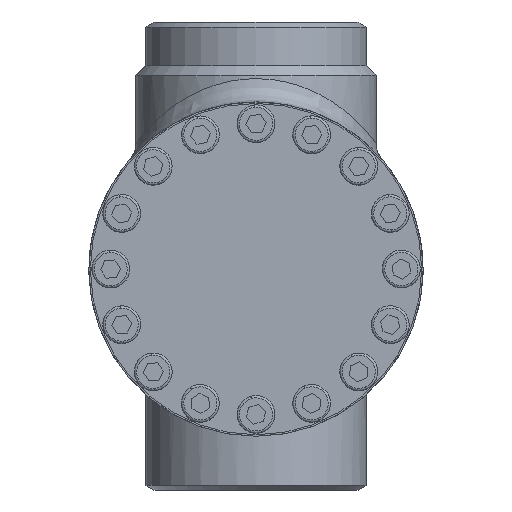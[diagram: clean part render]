
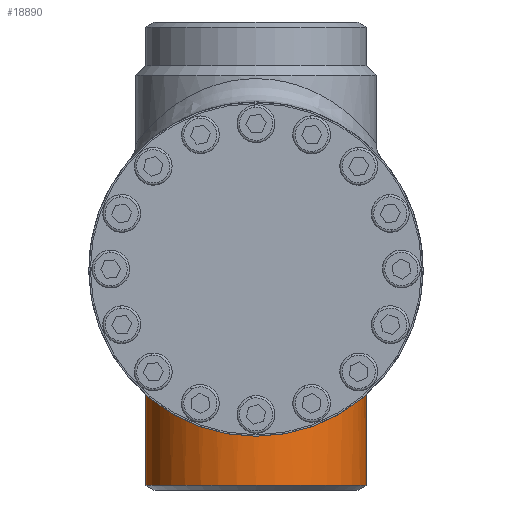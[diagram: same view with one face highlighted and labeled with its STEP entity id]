
A CAD part, front view. The second image highlights one B-rep face of the part: STEP entity #18890.
In plain terms, the highlighted cylindrical face has radius 38.05 mm (diameter 76.1 mm), a partial arc.
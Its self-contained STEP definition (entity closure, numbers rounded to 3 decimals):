
#17126 = ORIENTED_EDGE ( 'NONE', *, *, #10582, .T. ) ;
#1592 = VERTEX_POINT ( 'NONE', #28147 ) ;
#18431 = EDGE_LOOP ( 'NONE', ( #17126, #16137, #14436, #19377 ) ) ;
#18675 = EDGE_CURVE ( 'NONE', #10158, #3696, #11673, .T. ) ;
#18890 = ADVANCED_FACE ( 'NONE', ( #11850 ), #11851, .T. ) ;
#19377 = ORIENTED_EDGE ( 'NONE', *, *, #18675, .F. ) ;
#3696 = VERTEX_POINT ( 'NONE', #29289 ) ;
#20367 = EDGE_CURVE ( 'NONE', #1592, #3696, #12736, .T. ) ;
#7234 = LINE ( 'NONE', #7235, #7236 ) ;
#7235 = CARTESIAN_POINT ( 'NONE',  ( 0., 76., 38.05 ) ) ;
#7236 = VECTOR ( 'NONE', #7237, 1000. ) ;
#7237 = DIRECTION ( 'NONE',  ( 0., -1., 0. ) ) ;
#26110 = CARTESIAN_POINT ( 'NONE',  ( 0., 74.383, -38.05 ) ) ;
#26339 = CIRCLE ( 'NONE', #26340, 38.05 ) ;
#26340 = AXIS2_PLACEMENT_3D ( 'NONE', #26341, #26342, #26344 ) ;
#26341 = CARTESIAN_POINT ( 'NONE',  ( 0., 74.383, 0. ) ) ;
#26342 = DIRECTION ( 'NONE',  ( 0., -1., 0. ) ) ;
#26344 = DIRECTION ( 'NONE',  ( 0., 0., 1. ) ) ;
#10158 = VERTEX_POINT ( 'NONE', #26110 ) ;
#10582 = EDGE_CURVE ( 'NONE', #10158, #12294, #26339, .T. ) ;
#11673 = LINE ( 'NONE', #11674, #11675 ) ;
#11674 = CARTESIAN_POINT ( 'NONE',  ( 0., 76., -38.05 ) ) ;
#11675 = VECTOR ( 'NONE', #11676, 1000. ) ;
#11676 = DIRECTION ( 'NONE',  ( 0., -1., 0. ) ) ;
#28147 = CARTESIAN_POINT ( 'NONE',  ( 0., 0., 38.05 ) ) ;
#11850 = FACE_OUTER_BOUND ( 'NONE', #18431, .T. ) ;
#11851 = CYLINDRICAL_SURFACE ( 'NONE', #11852, 38.05 ) ;
#11852 = AXIS2_PLACEMENT_3D ( 'NONE', #11853, #11876, #11877 ) ;
#11853 = CARTESIAN_POINT ( 'NONE',  ( 0., 76., 0. ) ) ;
#11876 = DIRECTION ( 'NONE',  ( 0., -1., 0. ) ) ;
#11877 = DIRECTION ( 'NONE',  ( 0., 0., -1. ) ) ;
#12294 = VERTEX_POINT ( 'NONE', #28941 ) ;
#28941 = CARTESIAN_POINT ( 'NONE',  ( 0., 74.383, 38.05 ) ) ;
#12736 =( BOUNDED_CURVE ( )  B_SPLINE_CURVE ( 3, ( #12737, #12738, #12739, #12740 ),
 .UNSPECIFIED., .F., .F. ) 
 B_SPLINE_CURVE_WITH_KNOTS ( ( 4, 4 ),
 ( 1.571, 4.712 ),
 .UNSPECIFIED. ) 
 CURVE ( )  GEOMETRIC_REPRESENTATION_ITEM ( )  RATIONAL_B_SPLINE_CURVE ( ( 1., 0.333, 0.333, 1. ) ) 
 REPRESENTATION_ITEM ( '' )  );
#12737 = CARTESIAN_POINT ( 'NONE',  ( 0., 0., 38.05 ) ) ;
#12738 = CARTESIAN_POINT ( 'NONE',  ( 76.1, 80.1, 38.05 ) ) ;
#12739 = CARTESIAN_POINT ( 'NONE',  ( 76.1, 80.1, -38.05 ) ) ;
#12740 = CARTESIAN_POINT ( 'NONE',  ( 0., 0., -38.05 ) ) ;
#29289 = CARTESIAN_POINT ( 'NONE',  ( 0., 0., -38.05 ) ) ;
#14436 = ORIENTED_EDGE ( 'NONE', *, *, #20367, .T. ) ;
#15428 = EDGE_CURVE ( 'NONE', #12294, #1592, #7234, .T. ) ;
#16137 = ORIENTED_EDGE ( 'NONE', *, *, #15428, .T. ) ;
